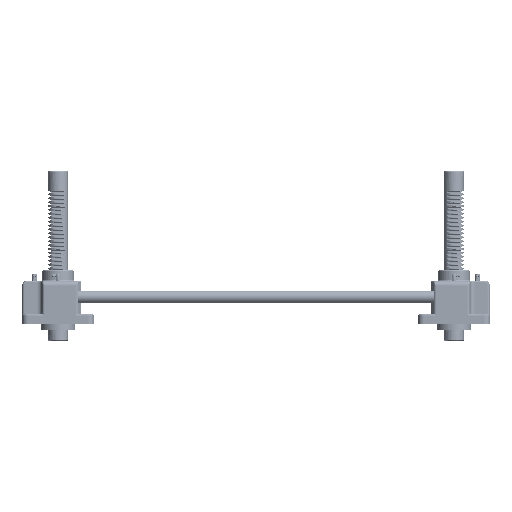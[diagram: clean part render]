
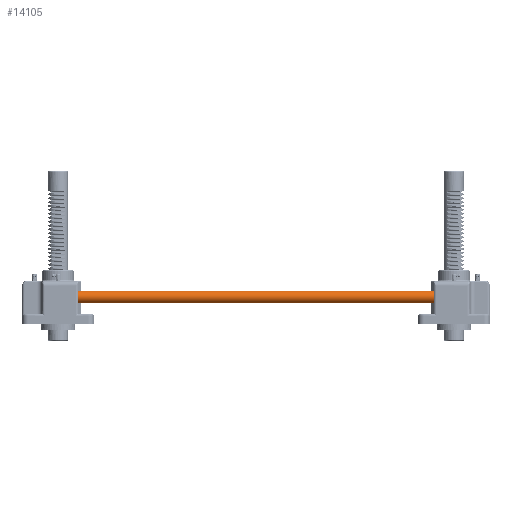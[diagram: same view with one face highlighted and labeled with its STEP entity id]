
A CAD part, left-side view. The second image highlights one B-rep face of the part: STEP entity #14105.
In plain terms, the highlighted cylindrical face has radius 12.5 mm (diameter 25 mm), a full revolution.
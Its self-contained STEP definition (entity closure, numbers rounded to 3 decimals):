
#14105=ADVANCED_FACE('',(#33717,#33718),#33719,.T.);
#33717=FACE_OUTER_BOUND('',#56476,.T.);
#33718=FACE_OUTER_BOUND('',#56477,.T.);
#33719=CYLINDRICAL_SURFACE('',#56478,12.5);
#56476=EDGE_LOOP('',(#134114));
#56477=EDGE_LOOP('',(#134115));
#56478=AXIS2_PLACEMENT_3D('',#134116,#134117,#134118);
#134114=ORIENTED_EDGE('',*,*,#159001,.T.);
#134115=ORIENTED_EDGE('',*,*,#158998,.T.);
#134116=CARTESIAN_POINT('',(0.0,0.0,50.0));
#134117=DIRECTION('',(0.0,0.0,-1.0));
#134118=DIRECTION('',(-1.0,0.0,0.0));
#158998=EDGE_CURVE('',#200274,#200274,#200275,.F.);
#159001=EDGE_CURVE('',#200280,#200280,#200281,.T.);
#200274=VERTEX_POINT('',#271864);
#200275=CIRCLE('',#271865,12.5);
#200280=VERTEX_POINT('',#271870);
#200281=CIRCLE('',#271871,12.5);
#271864=CARTESIAN_POINT('',(12.5,0.0,49.0));
#271865=AXIS2_PLACEMENT_3D('',#301436,#301437,#301438);
#271870=CARTESIAN_POINT('',(12.5,0.0,-799.0));
#271871=AXIS2_PLACEMENT_3D('',#301445,#301446,#301447);
#301436=CARTESIAN_POINT('',(0.0,0.0,49.0));
#301437=DIRECTION('',(0.0,0.0,1.0));
#301438=DIRECTION('',(1.0,0.0,0.0));
#301445=CARTESIAN_POINT('',(0.0,0.0,-799.0));
#301446=DIRECTION('',(0.0,0.0,1.0));
#301447=DIRECTION('',(1.0,0.0,0.0));
